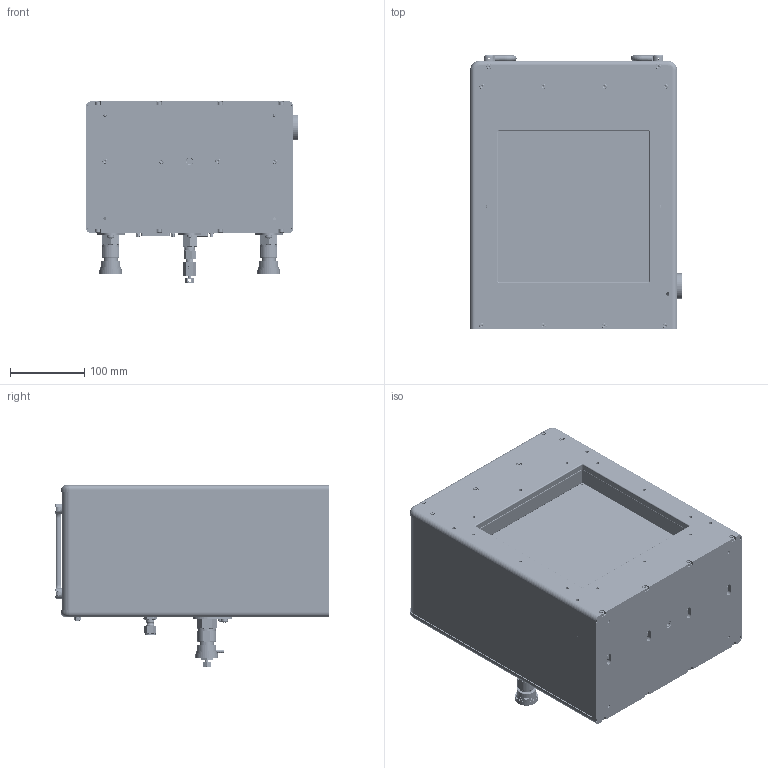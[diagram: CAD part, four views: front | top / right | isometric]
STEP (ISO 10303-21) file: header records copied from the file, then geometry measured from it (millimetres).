
FILE_DESCRIPTION (( 'STEP AP203' ), '1' );
FILE_NAME ('319-000-741_A.STEP', '2014-09-16T19:20:03', ( '' ), ( '' ), 'SwSTEP 2.0', 'SolidWorks 2013', '' );
FILE_SCHEMA (( 'CONFIG_CONTROL_DESIGN' ));
Products named in the file (1): 319-000-741_A
Bounding box: 285.75 x 369.96 x 244.86 mm (x, y, z)
Volume: 2847359.4 mm3; surface area: 1081779.1 mm2
Topology: 88 solids, 91 shells, 6465 faces, 15961 edges, 10184 vertices
Faces by surface type: plane 3495, cylinder 1335, bspline 764, cone 735, torus 128, sphere 8
Entity records: 228877 total; most frequent: CARTESIAN_POINT 79617, ORIENTED_EDGE 31766, DIRECTION 28608, EDGE_CURVE 15883, VERTEX_POINT 10184, LINE 9770, VECTOR 9770, AXIS2_PLACEMENT_3D 9419
